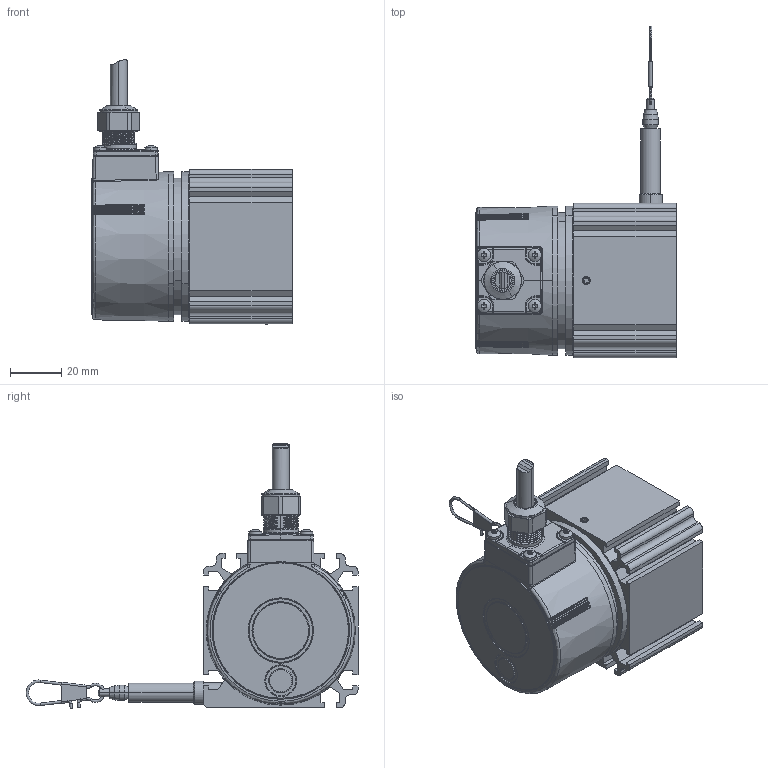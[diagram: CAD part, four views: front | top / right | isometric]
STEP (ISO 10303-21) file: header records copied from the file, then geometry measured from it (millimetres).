
FILE_DESCRIPTION((''),'2;1');
FILE_NAME('WDS-1500-P60-CR-TTL_02_ASM','2024-05-23T09:55:06',('15000597'),(''),'CREO PARAMETRIC BY PTC INC, 2022164','CREO PARAMETRIC BY PTC INC, 2022164','');
FILE_SCHEMA(('AUTOMOTIVE_DESIGN { 1 0 10303 214 1 1 1 1 }'));
Products named in the file (9): BAU_KLEMM_TTL_EIL580-SC10I5RE; ADAPTER_36_AF2; TELESO_SENZORU_P60_150_AF0; VIKO_PR55_TL1MM; PRUCHODKA_LANKA_P60_AF3; SROUB_ISO4026_STAV_HEX_M3X3_AF2; SROUB_ISO4026_STAV_HEX_M3X3_AF3; KARABINKA25_AF1; WDS-1500-P60-CR-TTL_02_ASM
Assembly tree (8 placements, depth 2):
  WDS-1500-P60-CR-TTL_02_ASM
    BAU_KLEMM_TTL_EIL580-SC10I5RE
    ADAPTER_36_AF2
    TELESO_SENZORU_P60_150_AF0
    VIKO_PR55_TL1MM
    PRUCHODKA_LANKA_P60_AF3
    SROUB_ISO4026_STAV_HEX_M3X3_AF2
    SROUB_ISO4026_STAV_HEX_M3X3_AF3
    KARABINKA25_AF1
Bounding box: 78 x 128.99 x 102.91 mm (x, y, z)
Volume: 37786.4 mm3; surface area: 52883.4 mm2
Topology: 7 solids, 15 shells, 824 faces, 2252 edges, 1449 vertices
Faces by surface type: cylinder 276, plane 233, bspline 132, torus 88, cone 60, extrusion 18, sphere 17
Entity records: 49246 total; most frequent: CARTESIAN_POINT 22364, ORIENTED_EDGE 4430, DIRECTION 3804, EDGE_CURVE 2232, AXIS2_PLACEMENT_3D 1499, VERTEX_POINT 1449, PRESENTATION_STYLE_ASSIGNMENT 1227, STYLED_ITEM 1223
